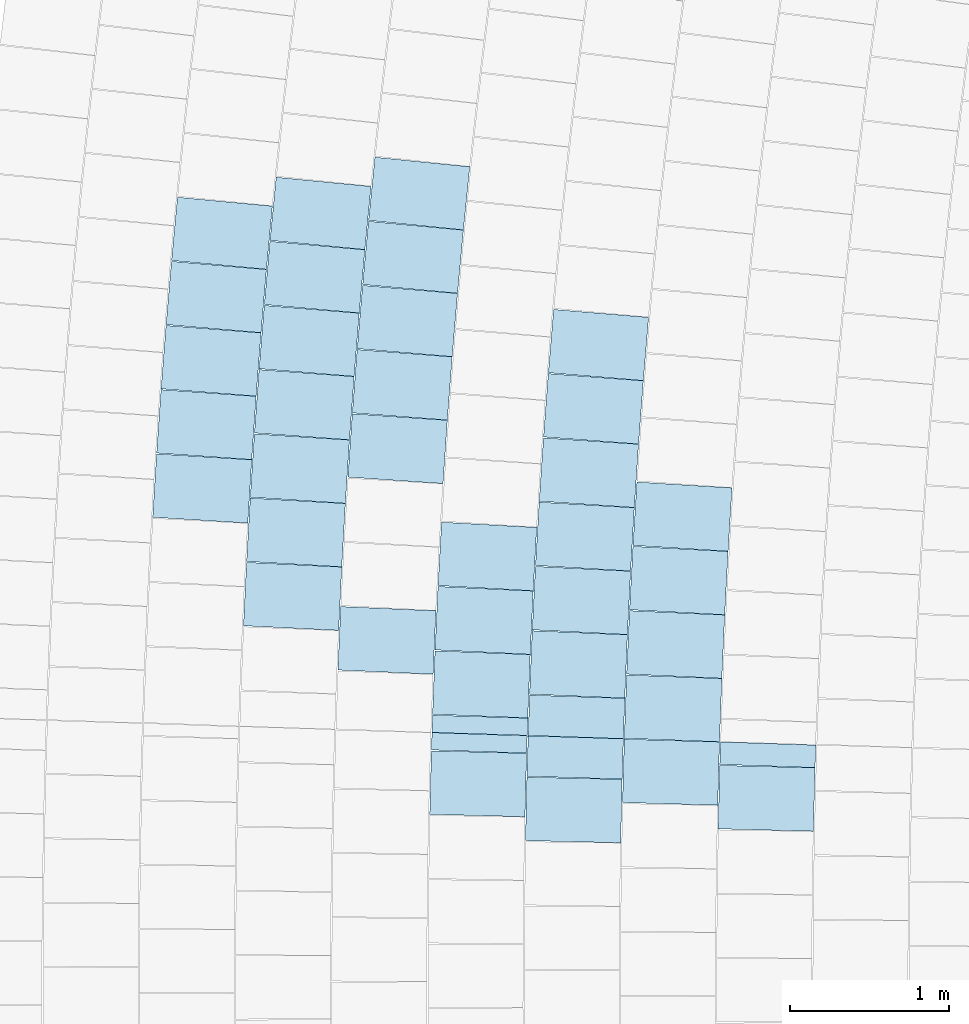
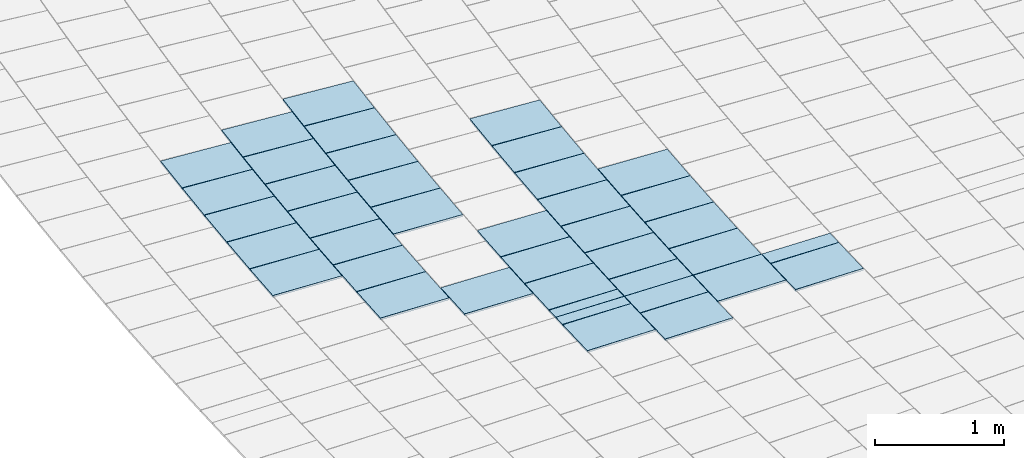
# One storey, part 86 of 438: 40 slabs.
"""IFC2X3 building model written with IfcOpenShell, lengths in millimetres."""

from ifc_helpers import new_model, entity, si_unit, converted_unit, derived_unit, direction, frame, origin, place, context, subcontext, project, spatial, polyline, outline, extrude, material, layer, layer_set, layer_usage, type_object, element, save


model = new_model("IFC2X3")

# Units and contexts
model_context = context("Model", 3, precision=0.01, world=origin(), true_north=direction((6.123031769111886e-17, 1.0)))
body_context = subcontext(model_context, "Body", "Model", "MODEL_VIEW")
ifc_project = project(units=[si_unit("LENGTHUNIT", "METRE", prefix="MILLI"), si_unit("AREAUNIT", "SQUARE_METRE"), si_unit("VOLUMEUNIT", "CUBIC_METRE"), converted_unit("PLANEANGLEUNIT", "DEGREE", entity("IfcRatioMeasure", 0.017453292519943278), si_unit("PLANEANGLEUNIT", "RADIAN"), dimensions=[0, 0, 0, 0, 0, 0, 0]), si_unit("MASSUNIT", "GRAM", prefix="KILO"), derived_unit("MASSDENSITYUNIT", [(si_unit("MASSUNIT", "GRAM", prefix="KILO"), 1), (si_unit("LENGTHUNIT", "METRE"), -3)]), derived_unit("MOMENTOFINERTIAUNIT", [(si_unit("LENGTHUNIT", "METRE"), 4)]), si_unit("TIMEUNIT", "SECOND"), si_unit("FREQUENCYUNIT", "HERTZ"), si_unit("THERMODYNAMICTEMPERATUREUNIT", "DEGREE_CELSIUS"), derived_unit("THERMALTRANSMITTANCEUNIT", [(si_unit("MASSUNIT", "GRAM", prefix="KILO"), 1), (si_unit("THERMODYNAMICTEMPERATUREUNIT", "KELVIN"), -1), (si_unit("TIMEUNIT", "SECOND"), -3)]), derived_unit("THERMALCONDUCTANCEUNIT", [(si_unit("MASSUNIT", "GRAM", prefix="KILO"), 1), (si_unit("LENGTHUNIT", "METRE"), 1), (si_unit("THERMODYNAMICTEMPERATUREUNIT", "KELVIN"), -1), (si_unit("TIMEUNIT", "SECOND"), -3)]), derived_unit("VOLUMETRICFLOWRATEUNIT", [(si_unit("LENGTHUNIT", "METRE"), 3), (si_unit("TIMEUNIT", "SECOND"), -1)]), derived_unit("MASSFLOWRATEUNIT", [(si_unit("MASSUNIT", "GRAM", prefix="KILO"), 1), (si_unit("TIMEUNIT", "SECOND"), -1)]), derived_unit("ROTATIONALFREQUENCYUNIT", [(si_unit("TIMEUNIT", "SECOND"), -1)]), si_unit("ELECTRICCURRENTUNIT", "AMPERE"), si_unit("ELECTRICVOLTAGEUNIT", "VOLT"), si_unit("POWERUNIT", "WATT"), converted_unit("FORCEUNIT", "KIP", entity("IfcRatioMeasure", 2.088543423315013e-05), si_unit("FORCEUNIT", "NEWTON"), dimensions=[1, 1, -2, 0, 0, 0, 0]), si_unit("ILLUMINANCEUNIT", "LUX"), si_unit("LUMINOUSFLUXUNIT", "LUMEN"), si_unit("LUMINOUSINTENSITYUNIT", "CANDELA"), derived_unit("USERDEFINED", [(si_unit("MASSUNIT", "GRAM", prefix="KILO"), -1), (si_unit("LENGTHUNIT", "METRE"), -2), (si_unit("TIMEUNIT", "SECOND"), 3), (si_unit("LUMINOUSFLUXUNIT", "LUMEN"), 1)]), derived_unit("USERDEFINED", [(si_unit("MASSUNIT", "GRAM", prefix="KILO"), 1), (si_unit("LENGTHUNIT", "METRE"), 3), (si_unit("TIMEUNIT", "SECOND"), -3), (si_unit("ELECTRICCURRENTUNIT", "AMPERE"), -2)]), derived_unit("USERDEFINED", [(si_unit("LENGTHUNIT", "METRE"), 2), (si_unit("TIMEUNIT", "SECOND"), -2)]), derived_unit("SOUNDPOWERUNIT", [(si_unit("MASSUNIT", "GRAM", prefix="KILO"), 1), (si_unit("LENGTHUNIT", "METRE"), 2), (si_unit("TIMEUNIT", "SECOND"), -3)]), derived_unit("SOUNDPRESSUREUNIT", [(si_unit("MASSUNIT", "GRAM", prefix="KILO"), 1), (si_unit("LENGTHUNIT", "METRE"), -1), (si_unit("TIMEUNIT", "SECOND"), -2)]), derived_unit("LINEARVELOCITYUNIT", [(si_unit("LENGTHUNIT", "METRE"), 1), (si_unit("TIMEUNIT", "SECOND"), -1)]), si_unit("PRESSUREUNIT", "PASCAL"), derived_unit("USERDEFINED", [(si_unit("LENGTHUNIT", "METRE"), -2), (si_unit("MASSUNIT", "GRAM", prefix="KILO"), 1), (si_unit("TIMEUNIT", "SECOND"), -2)]), derived_unit("LINEARFORCEUNIT", [(si_unit("MASSUNIT", "GRAM", prefix="KILO"), 1), (si_unit("LENGTHUNIT", "METRE"), 1), (si_unit("TIMEUNIT", "SECOND"), -2), (si_unit("LENGTHUNIT", "METRE"), -1)]), derived_unit("PLANARFORCEUNIT", [(si_unit("MASSUNIT", "GRAM", prefix="KILO"), 1), (si_unit("LENGTHUNIT", "METRE"), 1), (si_unit("TIMEUNIT", "SECOND"), -2), (si_unit("LENGTHUNIT", "METRE"), -2)]), derived_unit("SPECIFICHEATCAPACITYUNIT", [(si_unit("LENGTHUNIT", "METRE"), 2), (si_unit("TIMEUNIT", "SECOND"), -2), (si_unit("THERMODYNAMICTEMPERATUREUNIT", "KELVIN"), -1)]), derived_unit("VAPORPERMEABILITYUNIT", [(si_unit("TIMEUNIT", "SECOND"), 1), (si_unit("LENGTHUNIT", "METRE"), -1)]), derived_unit("DYNAMICVISCOSITYUNIT", [(si_unit("MASSUNIT", "GRAM", prefix="KILO"), 1), (si_unit("LENGTHUNIT", "METRE"), -1), (si_unit("TIMEUNIT", "SECOND"), -1)]), derived_unit("THERMALEXPANSIONCOEFFICIENTUNIT", [(si_unit("THERMODYNAMICTEMPERATUREUNIT", "KELVIN"), -1)])], contexts=[model_context])

# Site, building, storey
site_placement = place(None, frame((0.0, 0.0, 0.0), z_axis=(0.0, 0.0, 1.0), x_axis=(0.8191520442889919, 0.5735764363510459, 0.0)))
site = spatial("IfcSite", under=ifc_project, at=site_placement, Name="Default", CompositionType="ELEMENT")
building_placement = place(site_placement, origin())
building = spatial("IfcBuilding", under=site, at=building_placement, CompositionType="ELEMENT")
storey_placement = place(building_placement, origin())
storey = spatial("IfcBuildingStorey", under=building, at=storey_placement, Name="PLAN", CompositionType="ELEMENT", Elevation=0.0)

# Slabs
ifc_material = material(Name="Paint-01")
ifc_layer = layer(ifc_material, 20.00000000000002)
ifc_layer_set = layer_set([ifc_layer], Name="Floor:Slab-179:1000")
ifc_layer_usage = layer_usage(ifc_layer_set, "AXIS3", "POSITIVE", 0.0)
slab_type = type_object("IfcSlabType", Name="Floor:Slab-179:1000", PredefinedType="FLOOR", material=ifc_layer_set)
slab_1_placement = place(storey_placement, origin())
element("IfcSlab", 1, at=slab_1_placement, inside=storey, type_object=slab_type, material=ifc_layer_usage, Name="Floor:Slab-179:1000", ObjectType="Floor:Slab-179:1000", PredefinedType="FLOOR", context=body_context, shape_type="SweptSolid", body=[
    extrude(outline(polyline([(-299.9999986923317, -71.27713909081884), (299.99999869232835, -71.27713909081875), (299.99999869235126, 71.27714068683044), (-299.9999986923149, 71.27713749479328), (-299.9999986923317, -71.27713909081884)])), frame((-78218.55090529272, -39634.3513854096, 520.0), z_axis=(0.0, 0.0, -1.0), x_axis=(0.7994738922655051, -0.6007008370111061, 0.0)), (0.0, 0.0, 1.0), 20.000000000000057),
])
slab_2_placement = place(storey_placement, origin())
element("IfcSlab", 2, at=slab_2_placement, inside=storey, type_object=slab_type, material=ifc_layer_usage, Name="Floor:Slab-179:1000", ObjectType="Floor:Slab-179:1000", PredefinedType="FLOOR", context=body_context, shape_type="SweptSolid", body=[
    extrude(outline(polyline([(-300.0, -200.00000294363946), (299.9999976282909, -200.00000294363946), (300.0, 200.00000294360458), (-299.9999976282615, 200.0000029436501), (-300.0, -200.00000294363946)])), frame((-78381.6671554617, -39854.29441047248, 520.0), z_axis=(0.0, 0.0, -1.0), x_axis=(0.8045566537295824, -0.5938759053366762, 0.0)), (0.0, 0.0, 1.0), 20.000000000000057),
])
slab_3_placement = place(storey_placement, origin())
element("IfcSlab", 3, at=slab_3_placement, inside=storey, type_object=slab_type, material=ifc_layer_usage, Name="Floor:Slab-179:1000", ObjectType="Floor:Slab-179:1000", PredefinedType="FLOOR", context=body_context, shape_type="SweptSolid", body=[
    extrude(outline(polyline([(-299.99999869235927, -199.58975976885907), (299.9999986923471, -199.589759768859), (299.9999986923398, 199.58976136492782), (-299.99999869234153, 199.5897581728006), (-299.99999869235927, -199.58975976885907)])), frame((-78779.72543634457, -39375.225067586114, 520.0), z_axis=(0.0, 0.0, -1.0), x_axis=(0.8027001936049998, -0.596382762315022, 0.0)), (0.0, 0.0, 1.0), 20.000000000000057),
])
slab_4_placement = place(storey_placement, origin())
element("IfcSlab", 4, at=slab_4_placement, inside=storey, type_object=slab_type, material=ifc_layer_usage, Name="Floor:Slab-179:1000", ObjectType="Floor:Slab-179:1000", PredefinedType="FLOOR", context=body_context, shape_type="SweptSolid", body=[
    extrude(outline(polyline([(-300.0, -200.00000294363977), (299.999997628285, -200.0000029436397), (300.0, 200.00000294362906), (-299.9999976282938, 200.00000294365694), (-300.0, -200.00000294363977)])), frame((-79416.6211281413, -39219.1275976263, 520.0), z_axis=(0.0, 0.0, -1.0), x_axis=(0.8058230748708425, -0.5921563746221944, 0.0)), (0.0, 0.0, 1.0), 20.000000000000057),
])
slab_5_placement = place(storey_placement, origin())
element("IfcSlab", 5, at=slab_5_placement, inside=storey, type_object=slab_type, material=ifc_layer_usage, Name="Floor:Slab-179:1000", ObjectType="Floor:Slab-179:1000", PredefinedType="FLOOR", context=body_context, shape_type="SweptSolid", body=[
    extrude(outline(polyline([(-299.99999869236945, -127.54038940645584), (299.99999869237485, -127.54038940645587), (299.99999869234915, 127.54039100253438), (-299.9999986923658, 127.54038781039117), (-299.99999869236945, -127.54038940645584)])), frame((-79220.33388766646, -38953.81865013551, 520.0), z_axis=(0.0, 0.0, -1.0), x_axis=(0.8008828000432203, -0.5988211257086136, 0.0)), (0.0, 0.0, 1.0), 19.99999999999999),
])
slab_6_placement = place(storey_placement, origin())
element("IfcSlab", 6, at=slab_6_placement, inside=storey, type_object=slab_type, material=ifc_layer_usage, Name="Floor:Slab-179:1000", ObjectType="Floor:Slab-179:1000", PredefinedType="FLOOR", context=body_context, shape_type="SweptSolid", body=[
    extrude(outline(polyline([(-300.0, -200.00000294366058), (299.9999976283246, -200.0000029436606), (300.0, 200.00000294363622), (-299.9999976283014, 200.00000294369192), (-300.0, -200.00000294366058)])), frame((-79814.70305478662, -38739.549652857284, 520.0), z_axis=(0.0, 0.0, -1.0), x_axis=(0.8040022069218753, -0.5946263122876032, 0.0)), (0.0, 0.0, 1.0), 20.000000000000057),
])
slab_7_placement = place(storey_placement, origin())
element("IfcSlab", 7, at=slab_7_placement, inside=storey, type_object=slab_type, material=ifc_layer_usage, Name="Floor:Slab-179:1000", ObjectType="Floor:Slab-179:1000", PredefinedType="FLOOR", context=body_context, shape_type="SweptSolid", body=[
    extrude(outline(polyline([(-299.99999898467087, -54.944499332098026), (299.9999984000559, -54.944499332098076), (299.99999898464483, 54.94449933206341), (-299.99999840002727, 54.94449933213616), (-299.99999898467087, -54.944499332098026)])), frame((-79661.27583348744, -38532.87265420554, 520.0), z_axis=(0.0, 0.0, -1.0), x_axis=(0.7991033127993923, -0.6011937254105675, 0.0)), (0.0, 0.0, 1.0), 19.999999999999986),
])
slab_8_placement = place(storey_placement, origin())
element("IfcSlab", 8, at=slab_8_placement, inside=storey, type_object=slab_type, material=ifc_layer_usage, Name="Floor:Slab-179:1000", ObjectType="Floor:Slab-179:1000", PredefinedType="FLOOR", context=body_context, shape_type="SweptSolid", body=[
    extrude(outline(polyline([(-299.99999762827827, -200.00000294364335), (300.0, -200.00000294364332), (299.99999762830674, 200.00000294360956), (-300.0, 200.0000029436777), (-299.99999762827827, -200.00000294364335)])), frame((-77798.98899067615, -38100.45036780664, 520.0), z_axis=(0.0, 0.0, -1.0), x_axis=(0.7822349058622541, -0.6229835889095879, 0.0)), (0.0, 0.0, 1.0), 20.000000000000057),
])
slab_9_placement = place(storey_placement, origin())
element("IfcSlab", 9, at=slab_9_placement, inside=storey, type_object=slab_type, material=ifc_layer_usage, Name="Floor:Slab-179:1000", ObjectType="Floor:Slab-179:1000", PredefinedType="FLOOR", context=body_context, shape_type="SweptSolid", body=[
    extrude(outline(polyline([(-299.9999976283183, -200.0000029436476), (300.0, -200.00000294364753), (299.999997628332, 200.00000294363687), (-300.0, 200.00000294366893), (-299.9999976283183, -200.0000029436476)])), frame((-78048.42555843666, -38416.36377403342, 520.0), z_axis=(0.0, 0.0, -1.0), x_axis=(0.7874412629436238, -0.6163896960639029, 0.0)), (0.0, 0.0, 1.0), 20.000000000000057),
])
slab_10_placement = place(storey_placement, origin())
element("IfcSlab", 10, at=slab_10_placement, inside=storey, type_object=slab_type, material=ifc_layer_usage, Name="Floor:Slab-179:1000", ObjectType="Floor:Slab-179:1000", PredefinedType="FLOOR", context=body_context, shape_type="SweptSolid", body=[
    extrude(outline(polyline([(-299.9999976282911, -200.00000294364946), (300.0, -200.0000029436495), (299.99999762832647, 200.00000294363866), (-300.0, 200.00000294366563), (-299.9999976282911, -200.00000294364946)])), frame((-78295.19919277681, -38734.3616591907, 520.0), z_axis=(0.0, 0.0, -1.0), x_axis=(0.7925920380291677, -0.6097522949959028, 0.0)), (0.0, 0.0, 1.0), 20.000000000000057),
])
slab_11_placement = place(storey_placement, origin())
element("IfcSlab", 11, at=slab_11_placement, inside=storey, type_object=slab_type, material=ifc_layer_usage, Name="Floor:Slab-179:1000", ObjectType="Floor:Slab-179:1000", PredefinedType="FLOOR", context=body_context, shape_type="SweptSolid", body=[
    extrude(outline(polyline([(-299.9999976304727, -199.58975976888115), (300.0, -199.58975976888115), (299.9999976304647, 199.58976136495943), (-300.0, 199.58975817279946), (-299.9999976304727, -199.58975976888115)])), frame((-78539.04506892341, -39054.094331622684, 520.0), z_axis=(0.0, 0.0, -1.0), x_axis=(0.7976868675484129, -0.6030718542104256, 0.0)), (0.0, 0.0, 1.0), 20.000000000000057),
])
slab_12_placement = place(storey_placement, origin())
element("IfcSlab", 12, at=slab_12_placement, inside=storey, type_object=slab_type, material=ifc_layer_usage, Name="Floor:Slab-179:1000", ObjectType="Floor:Slab-179:1000", PredefinedType="FLOOR", context=body_context, shape_type="SweptSolid", body=[
    extrude(outline(polyline([(-299.99999762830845, -200.00000294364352), (300.0, -200.0000029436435), (299.9999976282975, 200.00000294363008), (-300.0, 200.00000294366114), (-299.99999762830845, -200.00000294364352)])), frame((-77868.9184793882, -37223.9428441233, 520.0), z_axis=(0.0, 0.0, -1.0), x_axis=(0.7739215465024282, -0.6332814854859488, 0.0)), (0.0, 0.0, 1.0), 20.000000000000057),
])
slab_13_placement = place(storey_placement, origin())
element("IfcSlab", 13, at=slab_13_placement, inside=storey, type_object=slab_type, material=ifc_layer_usage, Name="Floor:Slab-179:1000", ObjectType="Floor:Slab-179:1000", PredefinedType="FLOOR", context=body_context, shape_type="SweptSolid", body=[
    extrude(outline(polyline([(-299.99999762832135, -200.00000294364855), (300.0, -200.0000029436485), (299.9999976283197, 200.00000294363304), (-300.0, 200.0000029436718), (-299.99999762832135, -200.00000294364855)])), frame((-77612.74203802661, -36913.51068684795, 520.0), z_axis=(0.0, 0.0, -1.0), x_axis=(0.7686411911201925, -0.6396801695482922, 0.0)), (0.0, 0.0, 1.0), 20.000000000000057),
])
slab_14_placement = place(storey_placement, origin())
element("IfcSlab", 14, at=slab_14_placement, inside=storey, type_object=slab_type, material=ifc_layer_usage, Name="Floor:Slab-179:1000", ObjectType="Floor:Slab-179:1000", PredefinedType="FLOOR", context=body_context, shape_type="SweptSolid", body=[
    extrude(outline(polyline([(-299.99999762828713, -200.00000294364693), (300.0, -200.00000294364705), (299.9999976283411, 200.0000029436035), (-300.0, 200.00000294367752), (-299.99999762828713, -200.00000294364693)])), frame((-78122.51075031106, -37536.48956624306, 520.0), z_axis=(0.0, 0.0, -1.0), x_axis=(0.7791486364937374, -0.6268392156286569, 0.0)), (0.0, 0.0, 1.0), 20.000000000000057),
])
slab_15_placement = place(storey_placement, origin())
element("IfcSlab", 15, at=slab_15_placement, inside=storey, type_object=slab_type, material=ifc_layer_usage, Name="Floor:Slab-179:1000", ObjectType="Floor:Slab-179:1000", PredefinedType="FLOOR", context=body_context, shape_type="SweptSolid", body=[
    extrude(outline(polyline([(-299.99999762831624, -200.00000294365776), (300.0, -200.00000294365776), (299.99999762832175, 200.00000294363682), (-300.0, 200.00000294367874), (-299.99999762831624, -200.00000294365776)])), frame((-78373.50139722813, -37851.12934208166, 520.0), z_axis=(0.0, 0.0, -1.0), x_axis=(0.7843221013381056, -0.6203538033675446, 0.0)), (0.0, 0.0, 1.0), 20.000000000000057),
])
slab_16_placement = place(storey_placement, origin())
element("IfcSlab", 16, at=slab_16_placement, inside=storey, type_object=slab_type, material=ifc_layer_usage, Name="Floor:Slab-179:1000", ObjectType="Floor:Slab-179:1000", PredefinedType="FLOOR", context=body_context, shape_type="SweptSolid", body=[
    extrude(outline(polyline([(-299.9999976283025, -200.00000294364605), (300.0, -200.00000294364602), (299.9999976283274, 200.00000294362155), (-300.0, 200.00000294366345), (-299.9999976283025, -200.00000294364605)])), frame((-78867.60890125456, -38486.60129162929, 520.0), z_axis=(0.0, 0.0, -1.0), x_axis=(0.7945067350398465, -0.6072553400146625, 0.0)), (0.0, 0.0, 1.0), 20.000000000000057),
])
slab_17_placement = place(storey_placement, origin())
element("IfcSlab", 17, at=slab_17_placement, inside=storey, type_object=slab_type, material=ifc_layer_usage, Name="Floor:Slab-179:1000", ObjectType="Floor:Slab-179:1000", PredefinedType="FLOOR", context=body_context, shape_type="SweptSolid", body=[
    extrude(outline(polyline([(-299.99999762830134, -200.00000294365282), (300.0, -200.00000294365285), (299.99999762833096, 200.00000294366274), (-300.0, 200.00000294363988), (-299.99999762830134, -200.00000294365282)])), frame((-78621.87314563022, -38167.84051645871, 520.0), z_axis=(0.0, 0.0, -1.0), x_axis=(0.7894415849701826, -0.6138256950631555, 0.0)), (0.0, 0.0, 1.0), 20.000000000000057),
])
slab_18_placement = place(storey_placement, origin())
element("IfcSlab", 18, at=slab_18_placement, inside=storey, type_object=slab_type, material=ifc_layer_usage, Name="Floor:Slab-179:1000", ObjectType="Floor:Slab-179:1000", PredefinedType="FLOOR", context=body_context, shape_type="SweptSolid", body=[
    extrude(outline(polyline([(-299.9999980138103, -127.54038940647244), (299.9999993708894, -127.54038940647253), (299.9999980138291, 127.54039100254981), (-299.99999937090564, 127.54038781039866), (-299.9999980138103, -127.54038940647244)])), frame((-79067.1693775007, -38749.4570214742, 520.0), z_axis=(0.0, 0.0, -1.0), x_axis=(0.7995172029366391, -0.6006431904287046, 0.0)), (0.0, 0.0, 1.0), 20.000000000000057),
])
slab_19_placement = place(storey_placement, origin())
element("IfcSlab", 19, at=slab_19_placement, inside=storey, type_object=slab_type, material=ifc_layer_usage, Name="Floor:Slab-179:1000", ObjectType="Floor:Slab-179:1000", PredefinedType="FLOOR", context=body_context, shape_type="SweptSolid", body=[
    extrude(outline(polyline([(-299.9999976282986, -200.0000029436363), (300.0, -200.00000294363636), (299.9999976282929, 200.0000029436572), (-300.0, 200.00000294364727), (-299.9999976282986, -200.0000029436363)])), frame((-79194.91092531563, -37919.60533863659, 520.0), z_axis=(0.0, 0.0, -1.0), x_axis=(0.7913842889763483, -0.6113189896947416, 0.0)), (0.0, 0.0, 1.0), 20.000000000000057),
])
slab_20_placement = place(storey_placement, origin())
element("IfcSlab", 20, at=slab_20_placement, inside=storey, type_object=slab_type, material=ifc_layer_usage, Name="Floor:Slab-179:1000", ObjectType="Floor:Slab-179:1000", PredefinedType="FLOOR", context=body_context, shape_type="SweptSolid", body=[
    extrude(outline(polyline([(-299.99999762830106, -200.00000294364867), (300.0, -200.0000029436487), (299.99999762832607, 200.00000294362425), (-300.0, 200.00000294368), (-299.99999762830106, -200.00000294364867)])), frame((-79439.63225644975, -38239.106834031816, 520.0), z_axis=(0.0, 0.0, -1.0), x_axis=(0.7963664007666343, -0.6048144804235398, 0.0)), (0.0, 0.0, 1.0), 20.000000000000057),
])
slab_21_placement = place(storey_placement, origin())
element("IfcSlab", 21, at=slab_21_placement, inside=storey, type_object=slab_type, material=ifc_layer_usage, Name="Floor:Slab-179:1000", ObjectType="Floor:Slab-179:1000", PredefinedType="FLOOR", context=body_context, shape_type="SweptSolid", body=[
    extrude(outline(polyline([(-299.9999976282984, -200.00000294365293), (300.0, -200.00000294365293), (299.999997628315, 200.0000029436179), (-300.0, 200.00000294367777), (-299.9999976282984, -200.00000294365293)])), frame((-78947.58006030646, -37602.11962449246, 520.0), z_axis=(0.0, 0.0, -1.0), x_axis=(0.7863490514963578, -0.6177824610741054, 0.0)), (0.0, 0.0, 1.0), 20.000000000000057),
])
slab_22_placement = place(storey_placement, origin())
element("IfcSlab", 22, at=slab_22_placement, inside=storey, type_object=slab_type, material=ifc_layer_usage, Name="Floor:Slab-179:1000", ObjectType="Floor:Slab-179:1000", PredefinedType="FLOOR", context=body_context, shape_type="SweptSolid", body=[
    extrude(outline(polyline([(-299.9999984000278, -54.944499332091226), (299.9999989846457, -54.944499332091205), (299.99999840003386, 54.94449933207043), (-299.9999989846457, 54.944499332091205), (-299.9999984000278, -54.944499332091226)])), frame((-79594.94536018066, -38444.370405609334, 520.0), z_axis=(0.0, 0.0, -1.0), x_axis=(0.8012950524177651, -0.5982693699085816, 0.0)), (0.0, 0.0, 1.0), 20.000000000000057),
])
slab_23_placement = place(storey_placement, origin())
element("IfcSlab", 23, at=slab_23_placement, inside=storey, type_object=slab_type, material=ifc_layer_usage, Name="Floor:Slab-179:1000", ObjectType="Floor:Slab-179:1000", PredefinedType="FLOOR", context=body_context, shape_type="SweptSolid", body=[
    extrude(outline(polyline([(-299.99999762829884, -200.00000294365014), (300.0, -200.0000029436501), (299.99999762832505, 200.00000294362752), (-300.0, 200.00000294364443), (-299.99999762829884, -200.00000294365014)])), frame((-77990.02178896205, -35486.78086276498, 520.0), z_axis=(0.0, 0.0, -1.0), x_axis=(0.7575245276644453, -0.6528067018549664, 0.0)), (0.0, 0.0, 1.0), 19.99999999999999),
])
slab_24_placement = place(storey_placement, origin())
element("IfcSlab", 24, at=slab_24_placement, inside=storey, type_object=slab_type, material=ifc_layer_usage, Name="Floor:Slab-179:1000", ObjectType="Floor:Slab-179:1000", PredefinedType="FLOOR", context=body_context, shape_type="SweptSolid", body=[
    extrude(outline(polyline([(-299.9999976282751, -200.0000029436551), (300.0, -200.0000029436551), (299.9999976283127, 200.00000294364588), (-300.0, 200.00000294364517), (-299.9999976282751, -200.0000029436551)])), frame((-78251.49157298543, -35792.687934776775, 520.0), z_axis=(0.0, 0.0, -1.0), x_axis=(0.7627828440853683, -0.6466547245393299, 0.0)), (0.0, 0.0, 1.0), 20.000000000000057),
])
slab_25_placement = place(storey_placement, origin())
element("IfcSlab", 25, at=slab_25_placement, inside=storey, type_object=slab_type, material=ifc_layer_usage, Name="Floor:Slab-179:1000", ObjectType="Floor:Slab-179:1000", PredefinedType="FLOOR", context=body_context, shape_type="SweptSolid", body=[
    extrude(outline(polyline([(-299.9999976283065, -200.0000029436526), (300.0, -200.0000029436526), (299.9999976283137, 200.00000294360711), (-300.0, 200.00000294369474), (-299.9999976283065, -200.0000029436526)])), frame((-78510.47710736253, -36100.701047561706, 520.0), z_axis=(0.0, 0.0, -1.0), x_axis=(0.7679912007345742, -0.640460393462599, 0.0)), (0.0, 0.0, 1.0), 20.000000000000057),
])
slab_26_placement = place(storey_placement, origin())
element("IfcSlab", 26, at=slab_26_placement, inside=storey, type_object=slab_type, material=ifc_layer_usage, Name="Floor:Slab-179:1000", ObjectType="Floor:Slab-179:1000", PredefinedType="FLOOR", context=body_context, shape_type="SweptSolid", body=[
    extrude(outline(polyline([(-299.9999976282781, -200.0000029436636), (300.0, -200.00000294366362), (299.9999976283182, 200.00000294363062), (-300.0, 200.00000294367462), (-299.9999976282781, -200.0000029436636)])), frame((-78766.96142939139, -36410.80002727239, 520.0), z_axis=(0.0, 0.0, -1.0), x_axis=(0.7731492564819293, -0.6342241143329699, 0.0)), (0.0, 0.0, 1.0), 19.999999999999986),
])
slab_27_placement = place(storey_placement, origin())
element("IfcSlab", 27, at=slab_27_placement, inside=storey, type_object=slab_type, material=ifc_layer_usage, Name="Floor:Slab-179:1000", ObjectType="Floor:Slab-179:1000", PredefinedType="FLOOR", context=body_context, shape_type="SweptSolid", body=[
    extrude(outline(polyline([(-299.9999976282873, -200.00000294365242), (300.0, -200.00000294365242), (299.99999762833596, 200.00000294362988), (-300.0, 200.00000294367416), (-299.9999976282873, -200.00000294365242)])), frame((-79020.9277401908, -36722.96456344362, 520.0), z_axis=(0.0, 0.0, -1.0), x_axis=(0.7782566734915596, -0.6279462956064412, 0.0)), (0.0, 0.0, 1.0), 20.000000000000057),
])
slab_28_placement = place(storey_placement, origin())
element("IfcSlab", 28, at=slab_28_placement, inside=storey, type_object=slab_type, material=ifc_layer_usage, Name="Floor:Slab-179:1000", ObjectType="Floor:Slab-179:1000", PredefinedType="FLOOR", context=body_context, shape_type="SweptSolid", body=[
    extrude(outline(polyline([(-299.9999976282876, -200.0000029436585), (300.0, -200.0000029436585), (299.9999976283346, 200.000002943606), (-300.0, 200.00000294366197), (-299.9999976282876, -200.0000029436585)])), frame((-79767.55309675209, -37671.64638480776, 520.0), z_axis=(0.0, 0.0, -1.0), x_axis=(0.7932717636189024, -0.6088677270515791, 0.0)), (0.0, 0.0, 1.0), 20.000000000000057),
])
slab_29_placement = place(storey_placement, origin())
element("IfcSlab", 29, at=slab_29_placement, inside=storey, type_object=slab_type, material=ifc_layer_usage, Name="Floor:Slab-179:1000", ObjectType="Floor:Slab-179:1000", PredefinedType="FLOOR", context=body_context, shape_type="SweptSolid", body=[
    extrude(outline(polyline([(-299.9999976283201, -200.00000294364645), (300.0, -200.00000294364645), (299.99999762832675, 200.00000294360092), (-300.0, 200.00000294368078), (-299.9999976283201, -200.00000294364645)])), frame((-78569.75948427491, -35233.27668578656, 520.0), z_axis=(0.0, 0.0, -1.0), x_axis=(0.7599373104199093, -0.6499963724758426, 0.0)), (0.0, 0.0, 1.0), 20.000000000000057),
])
slab_30_placement = place(storey_placement, origin())
element("IfcSlab", 30, at=slab_30_placement, inside=storey, type_object=slab_type, material=ifc_layer_usage, Name="Floor:Slab-179:1000", ObjectType="Floor:Slab-179:1000", PredefinedType="FLOOR", context=body_context, shape_type="SweptSolid", body=[
    extrude(outline(polyline([(-299.9999976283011, -200.00000294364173), (300.0, -200.00000294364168), (299.99999762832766, 200.00000294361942), (-300.0, 200.00000294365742), (-299.9999976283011, -200.00000294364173)])), frame((-78830.09047538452, -35540.11506989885, 520.0), z_axis=(0.0, 0.0, -1.0), x_axis=(0.7651097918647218, -0.6438998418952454, 0.0)), (0.0, 0.0, 1.0), 20.000000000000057),
])
slab_31_placement = place(storey_placement, origin())
element("IfcSlab", 31, at=slab_31_placement, inside=storey, type_object=slab_type, material=ifc_layer_usage, Name="Floor:Slab-179:1000", ObjectType="Floor:Slab-179:1000", PredefinedType="FLOOR", context=body_context, shape_type="SweptSolid", body=[
    extrude(outline(polyline([(-299.99999762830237, -200.00000294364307), (300.0, -200.000002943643), (299.9999976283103, 200.00000294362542), (-300.0, 200.00000294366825), (-299.99999762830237, -200.00000294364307)])), frame((-79343.35142470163, -36159.98676877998, 520.0), z_axis=(0.0, 0.0, -1.0), x_axis=(0.7753077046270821, -0.631583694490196, 0.0)), (0.0, 0.0, 1.0), 20.000000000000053),
])
slab_32_placement = place(storey_placement, origin())
element("IfcSlab", 32, at=slab_32_placement, inside=storey, type_object=slab_type, material=ifc_layer_usage, Name="Floor:Slab-179:1000", ObjectType="Floor:Slab-179:1000", PredefinedType="FLOOR", context=body_context, shape_type="SweptSolid", body=[
    extrude(outline(polyline([(-299.99999762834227, -200.00000294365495), (300.0, -200.00000294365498), (299.99999762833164, 200.00000294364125), (-300.0, 200.00000294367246), (-299.99999762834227, -200.00000294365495)])), frame((-80094.49539470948, -37104.98349075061, 520.0), z_axis=(0.0, 0.0, -1.0), x_axis=(0.790232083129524, -0.6128076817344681, 0.0)), (0.0, 0.0, 1.0), 19.99999999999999),
])
slab_33_placement = place(storey_placement, origin())
element("IfcSlab", 33, at=slab_33_placement, inside=storey, type_object=slab_type, material=ifc_layer_usage, Name="Floor:Slab-179:1000", ObjectType="Floor:Slab-179:1000", PredefinedType="FLOOR", context=body_context, shape_type="SweptSolid", body=[
    extrude(outline(polyline([(-299.99999762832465, -200.00000294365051), (300.0, -200.00000294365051), (299.9999976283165, 200.00000294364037), (-300.0, 200.00000294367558), (-299.99999762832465, -200.00000294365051)])), frame((-79596.2485741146, -36472.980459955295, 520.0), z_axis=(0.0, 0.0, -1.0), x_axis=(0.7803324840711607, -0.6253648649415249, 0.0)), (0.0, 0.0, 1.0), 20.000000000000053),
])
slab_34_placement = place(storey_placement, origin())
element("IfcSlab", 34, at=slab_34_placement, inside=storey, type_object=slab_type, material=ifc_layer_usage, Name="Floor:Slab-179:1000", ObjectType="Floor:Slab-179:1000", PredefinedType="FLOOR", context=body_context, shape_type="SweptSolid", body=[
    extrude(outline(polyline([(-299.99999762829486, -200.00000294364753), (300.0, -200.00000294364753), (299.99999762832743, 200.0000029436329), (-300.0, 200.00000294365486), (-299.99999762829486, -200.00000294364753)])), frame((-79846.63523254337, -36787.98607923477, 520.0), z_axis=(0.0, 0.0, -1.0), x_axis=(0.7853073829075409, -0.6191060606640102, 0.0)), (0.0, 0.0, 1.0), 20.000000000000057),
])
slab_35_placement = place(storey_placement, origin())
element("IfcSlab", 35, at=slab_35_placement, inside=storey, type_object=slab_type, material=ifc_layer_usage, Name="Floor:Slab-179:1000", ObjectType="Floor:Slab-179:1000", PredefinedType="FLOOR", context=body_context, shape_type="SweptSolid", body=[
    extrude(outline(polyline([(-299.99999762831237, -200.000002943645), (300.0, -200.00000294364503), (299.99999762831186, 200.0000029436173), (-300.0, 200.00000294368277), (-299.99999762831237, -200.000002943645)])), frame((-79087.95995005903, -35849.025012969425, 520.0), z_axis=(0.0, 0.0, -1.0), x_axis=(0.7702333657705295, -0.6377621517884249, 0.0)), (0.0, 0.0, 1.0), 20.000000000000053),
])
slab_36_placement = place(storey_placement, origin())
element("IfcSlab", 36, at=slab_36_placement, inside=storey, type_object=slab_type, material=ifc_layer_usage, Name="Floor:Slab-179:1000", ObjectType="Floor:Slab-179:1000", PredefinedType="FLOOR", context=body_context, shape_type="SweptSolid", body=[
    extrude(outline(polyline([(-299.99999762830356, -200.00000294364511), (300.0, -200.00000294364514), (299.9999976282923, 200.0000029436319), (-300.0, 200.00000294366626), (-299.99999762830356, -200.00000294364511)])), frame((-79148.96776305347, -34980.19047795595, 520.0), z_axis=(0.0, 0.0, -1.0), x_axis=(0.7622823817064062, -0.6472445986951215, 0.0)), (0.0, 0.0, 1.0), 20.000000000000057),
])
slab_37_placement = place(storey_placement, origin())
element("IfcSlab", 37, at=slab_37_placement, inside=storey, type_object=slab_type, material=ifc_layer_usage, Name="Floor:Slab-179:1000", ObjectType="Floor:Slab-179:1000", PredefinedType="FLOOR", context=body_context, shape_type="SweptSolid", body=[
    extrude(outline(polyline([(-299.99999762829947, -200.00000294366), (300.0, -200.00000294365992), (299.99999762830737, 200.00000294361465), (-300.0, 200.00000294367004), (-299.99999762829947, -200.00000294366)])), frame((-79919.28301287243, -35909.51547614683, 520.0), z_axis=(0.0, 0.0, -1.0), x_axis=(0.7774058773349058, -0.628999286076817, 0.0)), (0.0, 0.0, 1.0), 19.99999999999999),
])
slab_38_placement = place(storey_placement, origin())
element("IfcSlab", 38, at=slab_38_placement, inside=storey, type_object=slab_type, material=ifc_layer_usage, Name="Floor:Slab-179:1000", ObjectType="Floor:Slab-179:1000", PredefinedType="FLOOR", context=body_context, shape_type="SweptSolid", body=[
    extrude(outline(polyline([(-299.99999762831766, -200.00000294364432), (300.0, -200.00000294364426), (299.9999976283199, 200.00000294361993), (-300.0, 200.0000029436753), (-299.99999762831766, -200.00000294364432)])), frame((-79408.18397665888, -35287.93383169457, 520.0), z_axis=(0.0, 0.0, -1.0), x_axis=(0.7673715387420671, -0.6412027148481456, 0.0)), (0.0, 0.0, 1.0), 20.000000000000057),
])
slab_39_placement = place(storey_placement, origin())
element("IfcSlab", 39, at=slab_39_placement, inside=storey, type_object=slab_type, material=ifc_layer_usage, Name="Floor:Slab-179:1000", ObjectType="Floor:Slab-179:1000", PredefinedType="FLOOR", context=body_context, shape_type="SweptSolid", body=[
    extrude(outline(polyline([(-299.9999976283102, -200.00000294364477), (300.0, -200.00000294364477), (299.9999976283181, 200.0000029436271), (-300.0, 200.00000294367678), (-299.9999976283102, -200.00000294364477)])), frame((-79664.96106789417, -35597.71527494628, 520.0), z_axis=(0.0, 0.0, -1.0), x_axis=(0.7724128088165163, -0.6351208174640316, 0.0)), (0.0, 0.0, 1.0), 20.000000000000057),
])
slab_40_placement = place(storey_placement, origin())
element("IfcSlab", 40, at=slab_40_placement, inside=storey, type_object=slab_type, material=ifc_layer_usage, Name="Floor:Slab-179:1000", ObjectType="Floor:Slab-179:1000", PredefinedType="FLOOR", context=body_context, shape_type="SweptSolid", body=[
    extrude(outline(polyline([(-299.9999976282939, -200.00000294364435), (300.0, -200.00000294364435), (299.9999976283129, 200.00000294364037), (-300.0, 200.00000294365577), (-299.9999976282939, -200.00000294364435)])), frame((-80171.13394091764, -36223.3149777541, 520.0), z_axis=(0.0, 0.0, -1.0), x_axis=(0.7823504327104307, -0.6228385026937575, 0.0)), (0.0, 0.0, 1.0), 20.000000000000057),
])

save(model, "model.ifc")
